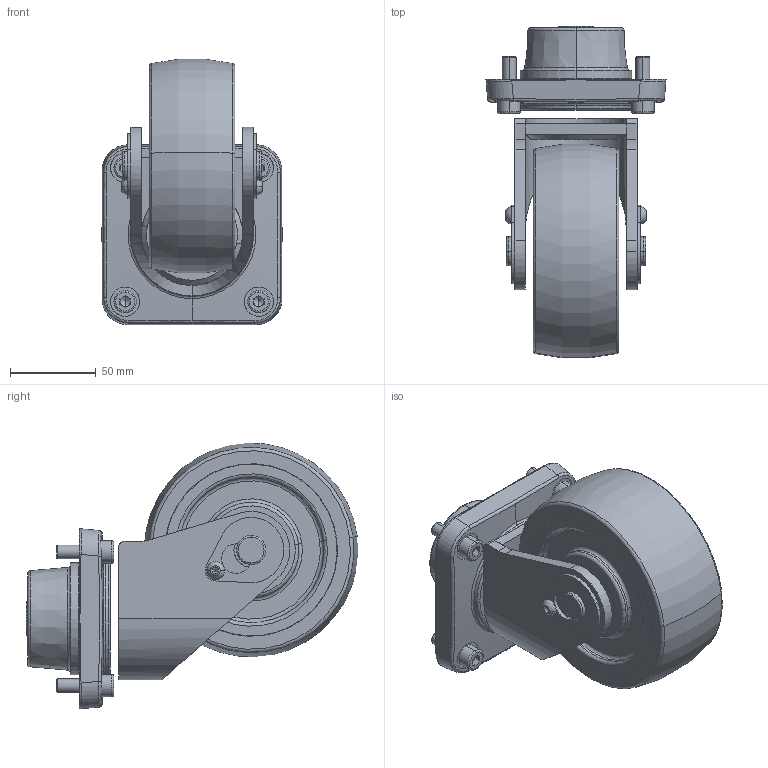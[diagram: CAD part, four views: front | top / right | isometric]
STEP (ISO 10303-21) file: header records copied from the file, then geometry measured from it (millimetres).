
FILE_DESCRIPTION (( 'STEP AP203' ), '1' );
FILE_NAME ('5渡創笭勀砃謫.STEP', '2018-04-02T13:09:18', ( '' ), ( '' ), 'SwSTEP 2.0', 'SolidWorks 2016', '' );
FILE_SCHEMA (( 'CONFIG_CONTROL_DESIGN' ));
Length unit declared in the file: millimetre
Products named in the file (1): 5渡創笭勀砃謫
Bounding box: 104.73 x 193.14 x 154.49 mm (x, y, z)
Surface area: 124910.3 mm2 (no closed solid volume)
Topology: 0 solids, 27 shells, 376 faces, 1278 edges, 860 vertices
Faces by surface type: plane 113, cylinder 85, torus 70, cone 54, sphere 36, bspline 18
Entity records: 15952 total; most frequent: CARTESIAN_POINT 5720, DIRECTION 2179, ORIENTED_EDGE 1962, EDGE_CURVE 1174, AXIS2_PLACEMENT_3D 921, VERTEX_POINT 796, CIRCLE 562, EDGE_LOOP 426
